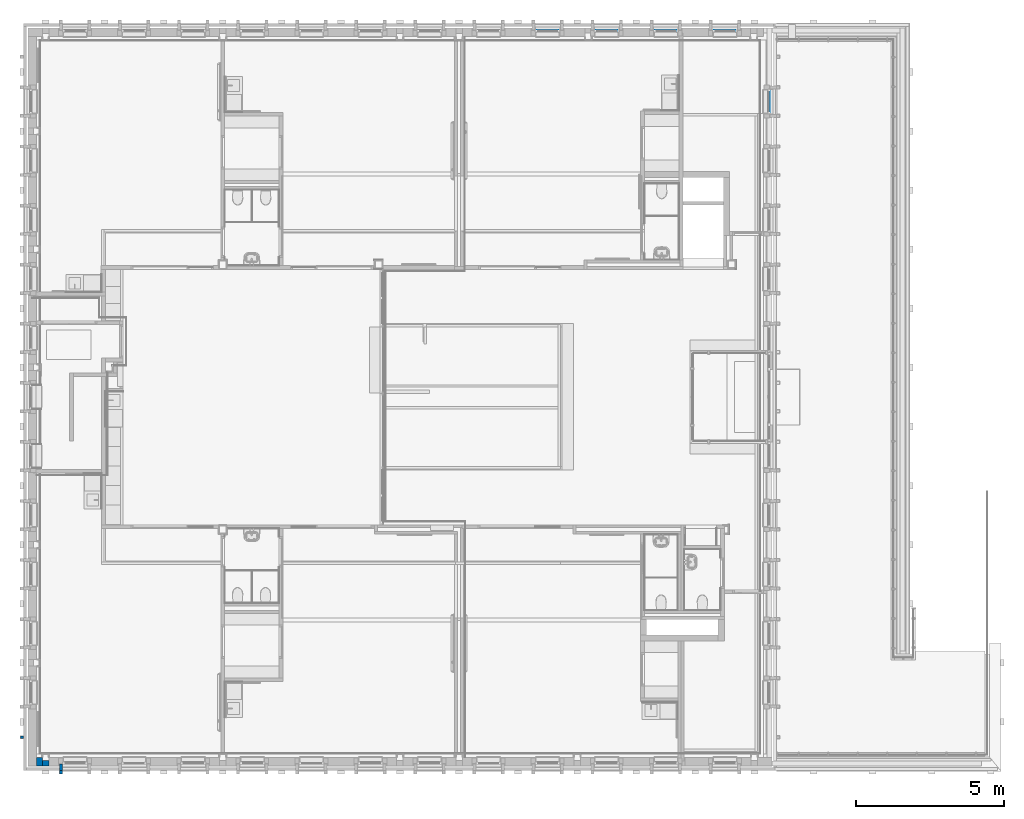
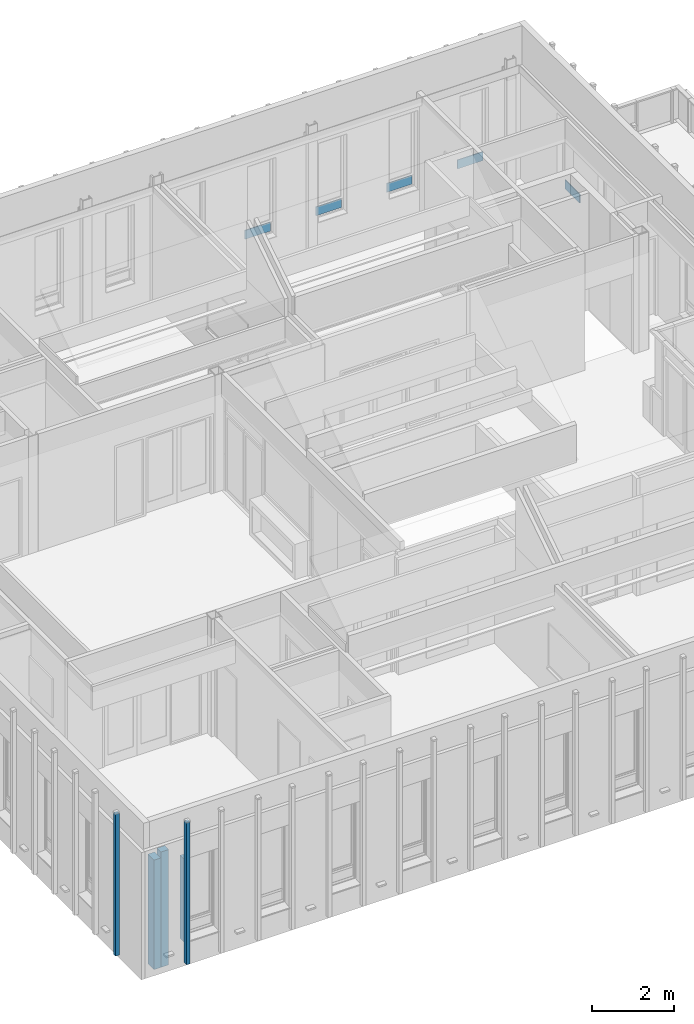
# One storey, part 23 of 118: 5 plates, 5 walls, 5 elements without a shape of their own.
"""IFC2X3 building model written with IfcOpenShell, lengths in millimetres."""

from ifc_helpers import new_model, entity, si_unit, converted_unit, derived_unit, direction, frame, frame_2d, origin, origin_2d_with_axis, place, context, subcontext, project, spatial, rectangle, extrude, source, transform, mapped, material, layer, layer_set, layer_usage, type_object, type_shapes, element, aggregate, save


model = new_model("IFC2X3")

# Units and contexts
model_context = context("Model", 3, precision=0.01, world=origin(), true_north=direction((6.123031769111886e-17, 1.0)))
plan_context = context("Plan", 3, precision=0.01, world=origin(), true_north=direction((6.123031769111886e-17, 1.0)))
body_context = subcontext(model_context, "Body", "Model", "MODEL_VIEW")
ifc_project = project(units=[si_unit("LENGTHUNIT", "METRE", prefix="MILLI"), si_unit("AREAUNIT", "SQUARE_METRE"), si_unit("VOLUMEUNIT", "CUBIC_METRE"), converted_unit("PLANEANGLEUNIT", "DEGREE", entity("IfcRatioMeasure", 0.017453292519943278), si_unit("PLANEANGLEUNIT", "RADIAN"), dimensions=[0, 0, 0, 0, 0, 0, 0]), si_unit("MASSUNIT", "GRAM", prefix="KILO"), derived_unit("MASSDENSITYUNIT", [(si_unit("MASSUNIT", "GRAM", prefix="KILO"), 1), (si_unit("LENGTHUNIT", "METRE"), -3)]), derived_unit("IONCONCENTRATIONUNIT", [(si_unit("MASSUNIT", "GRAM", prefix="KILO"), 1), (si_unit("LENGTHUNIT", "METRE"), -3)]), derived_unit("MOMENTOFINERTIAUNIT", [(si_unit("LENGTHUNIT", "METRE"), 4)]), si_unit("TIMEUNIT", "SECOND"), si_unit("FREQUENCYUNIT", "HERTZ"), si_unit("THERMODYNAMICTEMPERATUREUNIT", "DEGREE_CELSIUS"), derived_unit("THERMALTRANSMITTANCEUNIT", [(si_unit("MASSUNIT", "GRAM", prefix="KILO"), 1), (si_unit("THERMODYNAMICTEMPERATUREUNIT", "KELVIN"), -1), (si_unit("TIMEUNIT", "SECOND"), -3)]), derived_unit("THERMALCONDUCTANCEUNIT", [(si_unit("MASSUNIT", "GRAM", prefix="KILO"), 1), (si_unit("THERMODYNAMICTEMPERATUREUNIT", "KELVIN"), -1), (si_unit("TIMEUNIT", "SECOND"), -3), (si_unit("LENGTHUNIT", "METRE"), 1)]), derived_unit("VOLUMETRICFLOWRATEUNIT", [(si_unit("LENGTHUNIT", "METRE"), 3), (si_unit("TIMEUNIT", "SECOND"), -1)]), derived_unit("MASSFLOWRATEUNIT", [(si_unit("MASSUNIT", "GRAM", prefix="KILO"), 1), (si_unit("TIMEUNIT", "SECOND"), -1)]), derived_unit("ROTATIONALFREQUENCYUNIT", [(si_unit("TIMEUNIT", "SECOND"), -1)]), si_unit("ELECTRICCURRENTUNIT", "AMPERE"), si_unit("ELECTRICVOLTAGEUNIT", "VOLT"), si_unit("POWERUNIT", "WATT"), si_unit("FORCEUNIT", "NEWTON", prefix="KILO"), si_unit("ILLUMINANCEUNIT", "LUX"), si_unit("LUMINOUSFLUXUNIT", "LUMEN"), si_unit("LUMINOUSINTENSITYUNIT", "CANDELA"), derived_unit("USERDEFINED", [(si_unit("MASSUNIT", "GRAM", prefix="KILO"), -1), (si_unit("LENGTHUNIT", "METRE"), -2), (si_unit("TIMEUNIT", "SECOND"), 3), (si_unit("LUMINOUSFLUXUNIT", "LUMEN"), 1)]), derived_unit("USERDEFINED", [(si_unit("MASSUNIT", "GRAM", prefix="KILO"), 1), (si_unit("TIMEUNIT", "SECOND"), -3), (si_unit("LENGTHUNIT", "METRE"), 3), (si_unit("ELECTRICCURRENTUNIT", "AMPERE"), -2)]), derived_unit("SOUNDPOWERUNIT", [(si_unit("MASSUNIT", "GRAM", prefix="KILO"), 1), (si_unit("TIMEUNIT", "SECOND"), -3), (si_unit("LENGTHUNIT", "METRE"), 2)]), derived_unit("SOUNDPRESSUREUNIT", [(si_unit("MASSUNIT", "GRAM", prefix="KILO"), 1), (si_unit("LENGTHUNIT", "METRE"), -1), (si_unit("TIMEUNIT", "SECOND"), -2)]), derived_unit("LINEARVELOCITYUNIT", [(si_unit("LENGTHUNIT", "METRE"), 1), (si_unit("TIMEUNIT", "SECOND"), -1)]), si_unit("PRESSUREUNIT", "PASCAL"), derived_unit("USERDEFINED", [(si_unit("MASSUNIT", "GRAM", prefix="KILO"), 1), (si_unit("LENGTHUNIT", "METRE"), -2), (si_unit("TIMEUNIT", "SECOND"), -2)]), derived_unit("LINEARFORCEUNIT", [(si_unit("MASSUNIT", "GRAM", prefix="KILO"), 1), (si_unit("TIMEUNIT", "SECOND"), -2)]), derived_unit("PLANARFORCEUNIT", [(si_unit("MASSUNIT", "GRAM", prefix="KILO"), 1), (si_unit("LENGTHUNIT", "METRE"), -1), (si_unit("TIMEUNIT", "SECOND"), -2)]), derived_unit("SPECIFICHEATCAPACITYUNIT", [(si_unit("THERMODYNAMICTEMPERATUREUNIT", "KELVIN"), -1), (si_unit("LENGTHUNIT", "METRE"), 2), (si_unit("TIMEUNIT", "SECOND"), -2)]), derived_unit("HEATINGVALUEUNIT", [(si_unit("LENGTHUNIT", "METRE"), 2), (si_unit("TIMEUNIT", "SECOND"), -2)]), derived_unit("VAPORPERMEABILITYUNIT", [(si_unit("LENGTHUNIT", "METRE"), -1), (si_unit("TIMEUNIT", "SECOND"), 1)]), derived_unit("DYNAMICVISCOSITYUNIT", [(si_unit("MASSUNIT", "GRAM", prefix="KILO"), 1), (si_unit("TIMEUNIT", "SECOND"), -1), (si_unit("LENGTHUNIT", "METRE"), -1)]), derived_unit("THERMALEXPANSIONCOEFFICIENTUNIT", [(si_unit("THERMODYNAMICTEMPERATUREUNIT", "KELVIN"), -1)]), derived_unit("MODULUSOFELASTICITYUNIT", [(si_unit("MASSUNIT", "GRAM", prefix="KILO"), 1), (si_unit("LENGTHUNIT", "METRE"), -1), (si_unit("TIMEUNIT", "SECOND"), -2)]), derived_unit("ISOTHERMALMOISTURECAPACITYUNIT", [(si_unit("LENGTHUNIT", "METRE"), 3), (si_unit("MASSUNIT", "GRAM", prefix="KILO"), -1)]), derived_unit("MOISTUREDIFFUSIVITYUNIT", [(si_unit("TIMEUNIT", "SECOND"), -1), (si_unit("LENGTHUNIT", "METRE"), 2)])], contexts=[model_context, plan_context])

# Site, building, storey
site_placement = place(None, origin())
site = spatial("IfcSite", under=ifc_project, at=site_placement, Name="Locatie", CompositionType="ELEMENT")
building_placement = place(site_placement, origin())
building = spatial("IfcBuilding", under=site, at=building_placement, Name="Bouwwerk", CompositionType="ELEMENT")
storey_placement = place(building_placement, frame((0.0, 0.0, 7800.0)))
storey = spatial("IfcBuildingStorey", under=building, at=storey_placement, Name="02 tweede verdieping", CompositionType="ELEMENT", Elevation=7800.000000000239)

# Curtain wall, plate
curtain_wall_type = type_object("IfcCurtainWallType", Name="Curtain Wall:NLRS_21_CW_Ontwerpkozijn_aluminium_RT72", PredefinedType="NOTDEFINED")
curtain_wall_1_placement = place(storey_placement, frame((0.0, 0.0, -7800.0)))
curtain_wall_1 = element("IfcCurtainWall", 1, at=curtain_wall_1_placement, inside=storey, type_object=curtain_wall_type, Name="Curtain Wall:NLRS_21_CW_Ontwerpkozijn_aluminium_RT72", ObjectType="Curtain Wall:NLRS_21_CW_Ontwerpkozijn_aluminium_RT72")
ifc_material_1 = material(Name="ISR_Glas")
plate_type = type_object("IfcPlateType", Name="System Panel:RT72_glas", PredefinedType="CURTAIN_PANEL", material=ifc_material_1)
shared_shape = source(origin(), body_context, "Body", "SweptSolid", [
    extrude(rectangle(XDim=23.0, YDim=713.999999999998, at=origin_2d_with_axis()), frame((0.0, 53.499999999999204, 0.0), z_axis=(0.0, 0.0, 1.0), x_axis=(0.0, 1.0, 0.0)), (0.0, 0.0, 1.0), 267.000000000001),
])
type_shapes(plate_type, [shared_shape])
plate_1_placement = place(curtain_wall_1_placement, frame((33300.0, 34553.0, 8541.0)))
plate_1 = element("IfcPlate", 2, at=plate_1_placement, type_object=plate_type, material=ifc_material_1, Name="System Panel:RT72_glas", ObjectType="System Panel:RT72_glas", context=body_context, shape_type="MappedRepresentation", body=[
    mapped(shared_shape, transform((0.0, 0.0, 0.0), scale=1.0)),
])
aggregate(curtain_wall_1, [plate_1])

curtain_wall_2_placement = place(storey_placement, frame((0.0, 0.0, -7800.0)))
curtain_wall_2 = element("IfcCurtainWall", 3, at=curtain_wall_2_placement, inside=storey, type_object=curtain_wall_type, Name="Curtain Wall:NLRS_21_CW_Ontwerpkozijn_aluminium_RT72", ObjectType="Curtain Wall:NLRS_21_CW_Ontwerpkozijn_aluminium_RT72")
plate_2_placement = place(curtain_wall_2_placement, frame((29300.0, 34553.0, 8541.0)))
plate_2 = element("IfcPlate", 4, at=plate_2_placement, type_object=plate_type, material=ifc_material_1, Name="System Panel:RT72_glas", ObjectType="System Panel:RT72_glas", context=body_context, shape_type="MappedRepresentation", body=[
    mapped(shared_shape, transform((0.0, 0.0, 0.0), scale=1.0)),
])
aggregate(curtain_wall_2, [plate_2])

curtain_wall_3_placement = place(storey_placement, frame((0.0, 0.0, -7800.0)))
curtain_wall_3 = element("IfcCurtainWall", 5, at=curtain_wall_3_placement, inside=storey, type_object=curtain_wall_type, Name="Curtain Wall:NLRS_21_CW_Ontwerpkozijn_aluminium_RT72", ObjectType="Curtain Wall:NLRS_21_CW_Ontwerpkozijn_aluminium_RT72")
plate_3_placement = place(curtain_wall_3_placement, frame((27300.0, 34553.0, 8541.0)))
plate_3 = element("IfcPlate", 6, at=plate_3_placement, type_object=plate_type, material=ifc_material_1, Name="System Panel:RT72_glas", ObjectType="System Panel:RT72_glas", context=body_context, shape_type="MappedRepresentation", body=[
    mapped(shared_shape, transform((0.0, 0.0, 0.0), scale=1.0)),
])
aggregate(curtain_wall_3, [plate_3])

curtain_wall_4_placement = place(storey_placement, frame((0.0, 0.0, -7800.0)))
curtain_wall_4 = element("IfcCurtainWall", 7, at=curtain_wall_4_placement, inside=storey, type_object=curtain_wall_type, Name="Curtain Wall:NLRS_21_CW_Ontwerpkozijn_aluminium_RT72", ObjectType="Curtain Wall:NLRS_21_CW_Ontwerpkozijn_aluminium_RT72")
plate_4_placement = place(curtain_wall_4_placement, frame((34753.0, 32200.0, 8541.0), z_axis=(0.0, 0.0, 1.0), x_axis=(0.0, -1.0, 0.0)))
plate_4 = element("IfcPlate", 8, at=plate_4_placement, type_object=plate_type, material=ifc_material_1, Name="System Panel:RT72_glas", ObjectType="System Panel:RT72_glas", context=body_context, shape_type="MappedRepresentation", body=[
    mapped(shared_shape, transform((0.0, 0.0, 0.0), scale=1.0)),
])
aggregate(curtain_wall_4, [plate_4])

curtain_wall_5_placement = place(storey_placement, frame((0.0, 0.0, -7800.0)))
curtain_wall_5 = element("IfcCurtainWall", 9, at=curtain_wall_5_placement, inside=storey, type_object=curtain_wall_type, Name="Curtain Wall:NLRS_21_CW_Ontwerpkozijn_aluminium_RT72", ObjectType="Curtain Wall:NLRS_21_CW_Ontwerpkozijn_aluminium_RT72")
plate_5_placement = place(curtain_wall_5_placement, frame((31300.0, 34553.0, 8541.0)))
plate_5 = element("IfcPlate", 10, at=plate_5_placement, type_object=plate_type, material=ifc_material_1, Name="System Panel:RT72_glas", ObjectType="System Panel:RT72_glas", context=body_context, shape_type="MappedRepresentation", body=[
    mapped(shared_shape, transform((0.0, 0.0, 0.0), scale=1.0)),
])
aggregate(curtain_wall_5, [plate_5])

# Walls
ifc_material_2 = material(Name="n7_isolatie_glaswol")
ifc_layer_1 = layer(ifc_material_2, 30.0)
ifc_layer_2 = layer(ifc_material_2, 245.0)
ifc_material_3 = material(Name="i4_multiplex")
ifc_layer_3 = layer(ifc_material_3, 12.0)
ifc_material_4 = material(Name="f7_gipsvezel")
ifc_layer_4 = layer(ifc_material_4, 13.000000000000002)
ifc_layer_set_1 = layer_set([ifc_layer_1, ifc_layer_2, ifc_layer_3, ifc_layer_4], Name="Basic Wall:NLRS_22_WA_HSB bispouw 30-245-12-13 glaswol_gen_ISR")
ifc_layer_usage_1 = layer_usage(ifc_layer_set_1, "AXIS2", "NEGATIVE", 150.0)
wall_type_1 = type_object("IfcWallType", Name="Basic Wall:NLRS_22_WA_HSB bispouw 30-245-12-13 glaswol_gen_ISR", PredefinedType="STANDARD", material=ifc_layer_set_1)
wall_1_placement = place(storey_placement, frame((10190.0, 9850.0, -30.0), z_axis=(0.0, 0.0, 1.0), x_axis=(-1.0, 0.0, 0.0)))
element("IfcWallStandardCase", 11, at=wall_1_placement, inside=storey, type_object=wall_type_1, material=ifc_layer_usage_1, Name="Basic Wall:NLRS_22_WA_HSB bispouw 30-245-12-13 glaswol_gen_ISR", ObjectType="Basic Wall:NLRS_22_WA_HSB bispouw 30-245-12-13 glaswol_gen_ISR", context=body_context, shape_type="SweptSolid", body=[
    extrude(rectangle(XDim=190.00000000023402, YDim=300.0000000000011, at=frame_2d((95.00000000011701, 0.0), x_axis=(-1.0, 0.0))), origin(), (0.0, 0.0, 1.0), 3265.9999999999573),
])
ifc_material_5 = material(Name="g2_metselwerk_geel licht")
ifc_layer_5 = layer(ifc_material_5, 100.0)
ifc_layer_set_2 = layer_set([ifc_layer_5], Name="Basic Wall:21_WA_metselwerk_licht_100_gen_bdg")
ifc_layer_usage_2 = layer_usage(ifc_layer_set_2, "AXIS2", "NEGATIVE", 50.0)
wall_type_2 = type_object("IfcWallType", Name="Basic Wall:21_WA_metselwerk_licht_100_gen_bdg", PredefinedType="STANDARD", material=ifc_layer_set_2)
wall_2_placement = place(storey_placement, frame((10818.0, 9770.0, 603.0), z_axis=(0.0, 0.0, 1.0), x_axis=(0.0, -1.0, 0.0)))
element("IfcWallStandardCase", 12, at=wall_2_placement, inside=storey, type_object=wall_type_2, material=ifc_layer_usage_2, Name="Basic Wall:21_WA_metselwerk_licht_100_gen_bdg", ObjectType="Basic Wall:21_WA_metselwerk_licht_100_gen_bdg", context=body_context, shape_type="SweptSolid", body=[
    extrude(rectangle(XDim=210.00000000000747, YDim=99.99999999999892, at=frame_2d((105.00000000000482, 9.130474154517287e-13), x_axis=(-1.0, 0.0))), origin(), (0.0, 0.0, 1.0), 2471.999999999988),
])
wall_3_placement = place(storey_placement, frame((10818.0, 9560.0, 0.0), z_axis=(0.0, 0.0, 1.0), x_axis=(0.0, -1.0, 0.0)))
element("IfcWallStandardCase", 13, at=wall_3_placement, inside=storey, type_object=wall_type_2, material=ifc_layer_usage_2, Name="Basic Wall:21_WA_metselwerk_licht_100_gen_bdg", ObjectType="Basic Wall:21_WA_metselwerk_licht_100_gen_bdg", context=body_context, shape_type="SweptSolid", body=[
    extrude(rectangle(XDim=115.00000000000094, YDim=99.99999999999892, at=frame_2d((57.50000000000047, 3.730349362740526e-13), x_axis=(-1.0, 0.0))), origin(), (0.0, 0.0, 1.0), 4232.000000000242),
])
wall_4_placement = place(storey_placement, frame((9560.0, 10682.0, 0.0), z_axis=(0.0, 0.0, 1.0), x_axis=(-1.0, 0.0, 0.0)))
element("IfcWallStandardCase", 14, at=wall_4_placement, inside=storey, type_object=wall_type_2, material=ifc_layer_usage_2, Name="Basic Wall:21_WA_metselwerk_licht_100_gen_bdg", ObjectType="Basic Wall:21_WA_metselwerk_licht_100_gen_bdg", context=body_context, shape_type="SweptSolid", body=[
    extrude(rectangle(XDim=115.00000000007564, YDim=99.99999999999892, at=frame_2d((57.50000000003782, 1.9895196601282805e-13), x_axis=(-1.0, 0.0))), origin(), (0.0, 0.0, 1.0), 4231.999999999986),
])
ifc_material_6 = material(Name="n7_isolatie_Resol")
ifc_layer_6 = layer(ifc_material_6, 200.0)
ifc_layer_set_3 = layer_set([ifc_layer_6], Name="Basic Wall:NLRS_22_WA_HSB bispouw 200_gen_ISR")
ifc_layer_usage_3 = layer_usage(ifc_layer_set_3, "AXIS2", "NEGATIVE", 100.0)
wall_type_3 = type_object("IfcWallType", Name="Basic Wall:NLRS_22_WA_HSB bispouw 200_gen_ISR", PredefinedType="STANDARD", material=ifc_layer_set_3)
wall_5_placement = place(storey_placement, frame((10410.0, 9800.0, -30.0), z_axis=(0.0, 0.0, 1.0), x_axis=(-1.0, 0.0, 0.0)))
element("IfcWallStandardCase", 15, at=wall_5_placement, inside=storey, type_object=wall_type_3, material=ifc_layer_usage_3, Name="Basic Wall:NLRS_22_WA_HSB bispouw 200_gen_ISR", ObjectType="Basic Wall:NLRS_22_WA_HSB bispouw 200_gen_ISR", context=body_context, shape_type="SweptSolid", body=[
    extrude(rectangle(XDim=220.00000000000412, YDim=200.0000000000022, at=frame_2d((110.00000000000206, -4.476419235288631e-13), x_axis=(-1.0, 0.0))), origin(), (0.0, 0.0, 1.0), 3440.0000000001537),
])

save(model, "model.ifc")
